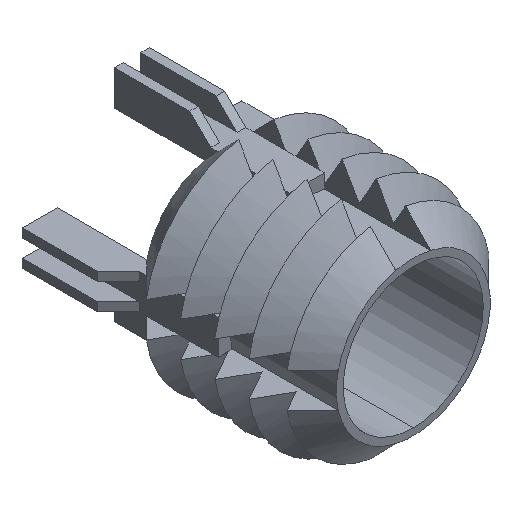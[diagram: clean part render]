
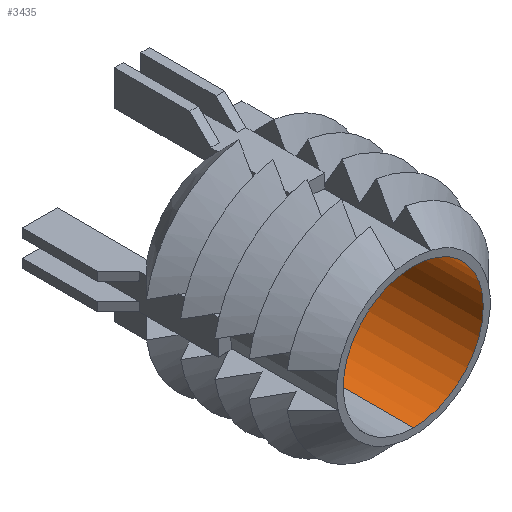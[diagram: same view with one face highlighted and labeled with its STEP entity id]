
A CAD part, isometric view. The second image highlights one B-rep face of the part: STEP entity #3435.
In plain terms, the highlighted cylindrical face has radius 4 mm (diameter 8 mm), a partial arc.
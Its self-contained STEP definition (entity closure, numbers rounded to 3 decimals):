
#15 = CARTESIAN_POINT ( 'NONE',  ( 0., 0., -4. ) ) ;
#16 = DIRECTION ( 'NONE',  ( 0., 0., 1. ) ) ;
#170 = AXIS2_PLACEMENT_3D ( 'NONE', #920, #3205, #4122 ) ;
#193 = ORIENTED_EDGE ( 'NONE', *, *, #1577, .T. ) ;
#237 = EDGE_CURVE ( 'NONE', #1373, #2905, #3765, .T. ) ;
#254 = FACE_OUTER_BOUND ( 'NONE', #3872, .T. ) ;
#261 = EDGE_CURVE ( 'NONE', #1070, #1955, #3214, .T. ) ;
#406 = CARTESIAN_POINT ( 'NONE',  ( 0., -10.922, 4. ) ) ;
#591 = CYLINDRICAL_SURFACE ( 'NONE', #170, 4. ) ;
#767 = VECTOR ( 'NONE', #3467, 1000. ) ;
#779 = CIRCLE ( 'NONE', #3287, 4. ) ;
#846 = CIRCLE ( 'NONE', #2274, 4. ) ;
#920 = CARTESIAN_POINT ( 'NONE',  ( 0., -22.236, 0. ) ) ;
#1039 = DIRECTION ( 'NONE',  ( 0., 1., 0. ) ) ;
#1070 = VERTEX_POINT ( 'NONE', #2165 ) ;
#1265 = CARTESIAN_POINT ( 'NONE',  ( 0., -22.236, 4. ) ) ;
#1373 = VERTEX_POINT ( 'NONE', #406 ) ;
#1447 = ORIENTED_EDGE ( 'NONE', *, *, #237, .T. ) ;
#1506 = CARTESIAN_POINT ( 'NONE',  ( 0., -22.236, -4. ) ) ;
#1552 = ORIENTED_EDGE ( 'NONE', *, *, #3572, .T. ) ;
#1566 = DIRECTION ( 'NONE',  ( 0., 1., 0. ) ) ;
#1577 = EDGE_CURVE ( 'NONE', #1070, #1373, #846, .T. ) ;
#1669 = CARTESIAN_POINT ( 'NONE',  ( 0., -10.922, 0. ) ) ;
#1949 = DIRECTION ( 'NONE',  ( 0., 0., 1. ) ) ;
#1955 = VERTEX_POINT ( 'NONE', #15 ) ;
#2165 = CARTESIAN_POINT ( 'NONE',  ( 0., -10.922, -4. ) ) ;
#2274 = AXIS2_PLACEMENT_3D ( 'NONE', #1669, #3251, #1949 ) ;
#2474 = CARTESIAN_POINT ( 'NONE',  ( 0., 0., 4. ) ) ;
#2650 = CARTESIAN_POINT ( 'NONE',  ( 0., 0., 0. ) ) ;
#2905 = VERTEX_POINT ( 'NONE', #2474 ) ;
#3205 = DIRECTION ( 'NONE',  ( 0., 1., 0. ) ) ;
#3214 = LINE ( 'NONE', #1506, #767 ) ;
#3251 = DIRECTION ( 'NONE',  ( 0., -1., 0. ) ) ;
#3287 = AXIS2_PLACEMENT_3D ( 'NONE', #2650, #1039, #16 ) ;
#3435 = ADVANCED_FACE ( 'NONE', ( #254 ), #591, .F. ) ;
#3467 = DIRECTION ( 'NONE',  ( 0., 1., 0. ) ) ;
#3572 = EDGE_CURVE ( 'NONE', #2905, #1955, #779, .T. ) ;
#3765 = LINE ( 'NONE', #1265, #3952 ) ;
#3768 = ORIENTED_EDGE ( 'NONE', *, *, #261, .F. ) ;
#3872 = EDGE_LOOP ( 'NONE', ( #3768, #193, #1447, #1552 ) ) ;
#3952 = VECTOR ( 'NONE', #1566, 1000. ) ;
#4122 = DIRECTION ( 'NONE',  ( 0., 0., 1. ) ) ;
